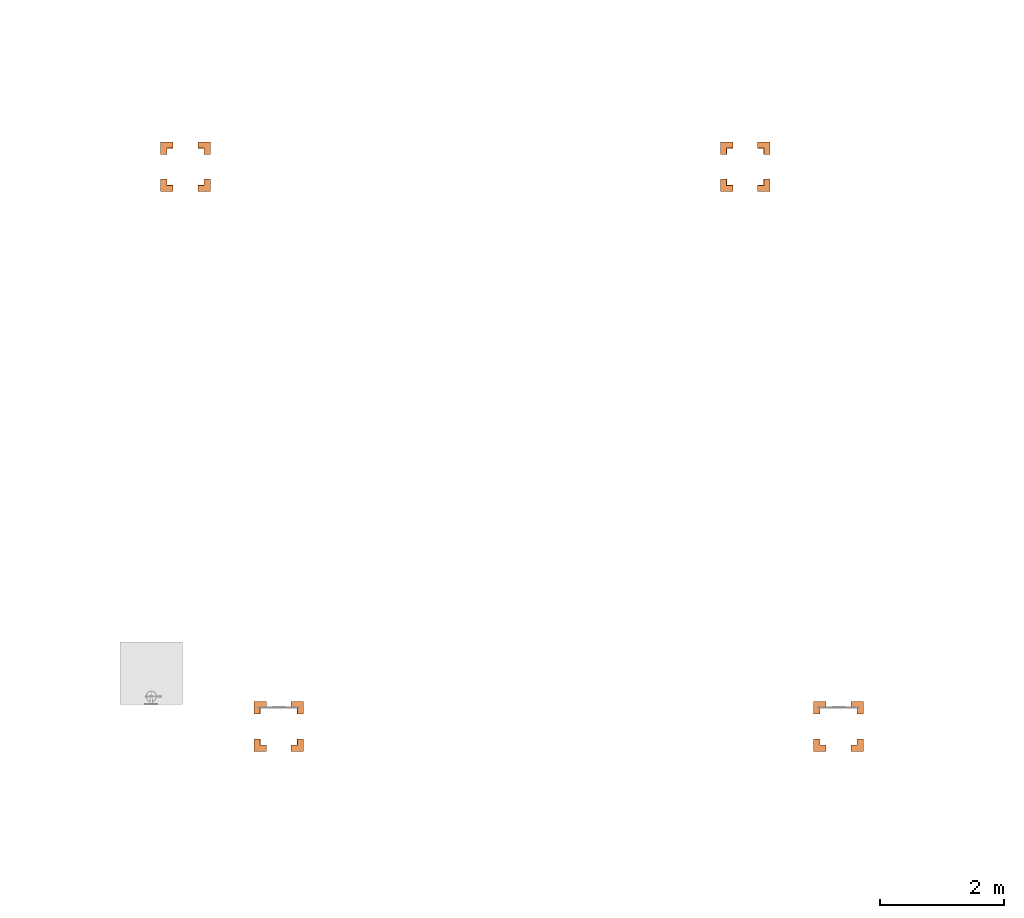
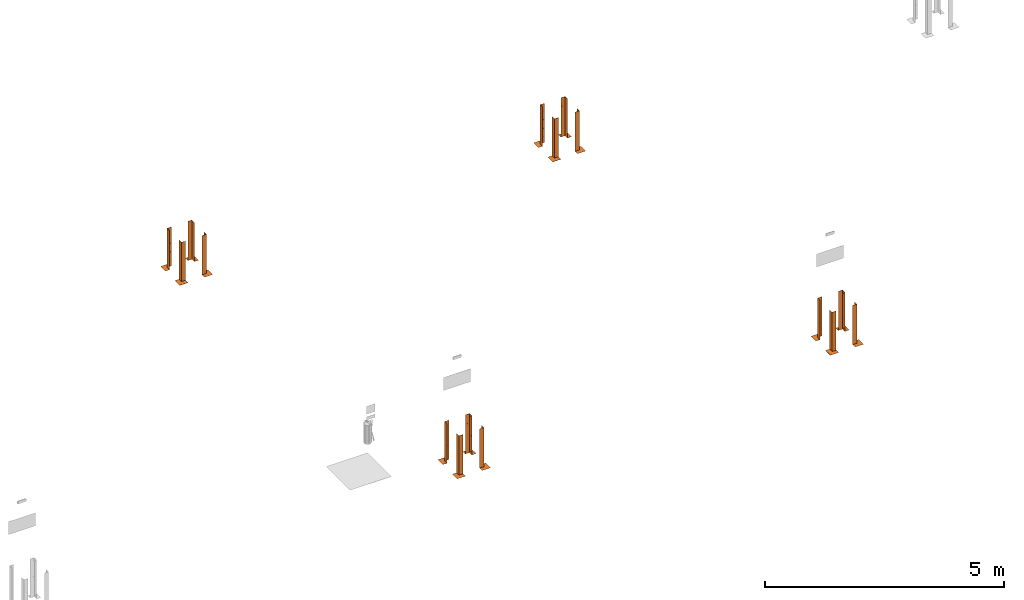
# One storey, part 22 of 119: 16 proxies.
"""IFC2X3 building model written with IfcOpenShell, lengths in metres."""

import ifcopenshell
import ifcopenshell.guid

model = None  # the IFC model being written
_history = None  # IfcOwnerHistory: only IFC2X3 demands one
_inside = {}  # id of a spatial element -> (the spatial element, [elements in it])
_under = {}  # id of a project, library or spatial element -> (it, [spatial elements below it])
_declared = {}  # id of a project -> (the project, [libraries it declares])
_typed = {}  # id of a type object -> (the type object, [elements of that type])
_made_of = {}  # id of a material, layer set ... -> (it, [elements and type objects made of it])


def new_model(schema):
    """Start an empty IFC model of exactly this schema.

    Asked for "IFC4X3", IfcOpenShell would pick the latest addendum, in which some entities
    have other attributes; the version numbers below select the first issue.
    IFC2X3 requires an IfcOwnerHistory on every rooted entity: one is made here for all.
    """
    global model, _history
    if schema == "IFC4X3":
        model = ifcopenshell.file(schema_version=(4, 3, 0, 0))
    else:
        model = ifcopenshell.file(schema=schema)
    _inside.clear()
    _under.clear()
    _declared.clear()
    _typed.clear()
    _made_of.clear()
    _history = None
    if model.schema == "IFC2X3":
        org = make("IfcOrganization", Name="unknown")
        user = make(
            "IfcPersonAndOrganization",
            ThePerson=make("IfcPerson", FamilyName="unknown"),
            TheOrganization=org,
        )
        app = make(
            "IfcApplication",
            ApplicationDeveloper=org,
            Version="unknown",
            ApplicationFullName="unknown",
            ApplicationIdentifier="unknown",
        )
        _history = make(
            "IfcOwnerHistory",
            OwningUser=user,
            OwningApplication=app,
            ChangeAction="ADDED",
            CreationDate=0,
        )
    return model


def make(cls, **values):
    """One entity of the class cls with the attributes given. An attribute that is None is left unset."""
    return model.create_entity(
        cls, **{name: value for name, value in values.items() if value is not None}
    )


def entity(cls, *values):
    """Any entity or typed value of the class cls, its attributes in the order of the schema. None: left unset."""
    e = model.create_entity(cls)
    for i, value in enumerate(values):
        if value is not None:
            e[i] = value
    return e


def rooted(cls, **values):
    """An entity with a GlobalId (a new one), such as an element, a storey or a relation."""
    return make(cls, GlobalId=ifcopenshell.guid.new(), OwnerHistory=_history, **values)


def si_unit(unit_type, name, prefix=None):
    """IfcSIUnit, for example si_unit("LENGTHUNIT", "METRE", prefix="MILLI")."""
    return make("IfcSIUnit", UnitType=unit_type, Prefix=prefix, Name=name)


def converted_unit(unit_type, name, factor, base, dimensions=None, offset=None):
    """IfcConversionBasedUnit, such as the inch: factor (a typed value) times the base unit."""
    return make(
        "IfcConversionBasedUnit"
        if offset is None
        else "IfcConversionBasedUnitWithOffset",
        ConversionOffset=offset,
        Dimensions=None
        if dimensions is None
        else entity("IfcDimensionalExponents", *dimensions),
        UnitType=unit_type,
        Name=name,
        ConversionFactor=make(
            "IfcMeasureWithUnit", ValueComponent=factor, UnitComponent=base
        ),
    )


def derived_unit(unit_type, elements):
    """IfcDerivedUnit: a product of units, each with its exponent."""
    return make(
        "IfcDerivedUnit",
        Elements=[
            make("IfcDerivedUnitElement", Unit=unit, Exponent=power)
            for unit, power in elements
        ],
        UnitType=unit_type,
    )


def assignment(units):
    """IfcUnitAssignment: the units of a project."""
    return None if units is None else make("IfcUnitAssignment", Units=units)


def point(xyz):
    """IfcCartesianPoint."""
    return None if xyz is None else make("IfcCartesianPoint", Coordinates=xyz)


def direction(xyz):
    """IfcDirection."""
    return None if xyz is None else make("IfcDirection", DirectionRatios=xyz)


def frame(location, z_axis=None, x_axis=None):
    """IfcAxis2Placement3D, a coordinate frame: its origin and axes. An axis left out is left unset."""
    return make(
        "IfcAxis2Placement3D",
        Location=point(location),
        Axis=direction(z_axis),
        RefDirection=direction(x_axis),
    )


def origin():
    """The frame at (0, 0, 0) with its axes left unset."""
    return frame((0.0, 0.0, 0.0))


def place(relative_to, where):
    """IfcLocalPlacement: puts the frame where relative to a parent placement (None: the world)."""
    return make(
        "IfcLocalPlacement", PlacementRelTo=relative_to, RelativePlacement=where
    )


def context(
    kind, dimensions, precision=None, world=None, true_north=None, identifier=None
):
    """IfcGeometricRepresentationContext, for example the 3D "Model" context."""
    return make(
        "IfcGeometricRepresentationContext",
        ContextIdentifier=identifier,
        ContextType=kind,
        CoordinateSpaceDimension=dimensions,
        Precision=precision,
        WorldCoordinateSystem=world,
        TrueNorth=true_north,
    )


def subcontext(parent, identifier, kind, view, scale=None):
    """IfcGeometricRepresentationSubContext, for example "Body" below "Model"."""
    return make(
        "IfcGeometricRepresentationSubContext",
        ContextIdentifier=identifier,
        ContextType=kind,
        ParentContext=parent,
        TargetScale=scale,
        TargetView=view,
    )


def project(units=None, contexts=None):
    """IfcProject with its units and contexts."""
    return rooted(
        "IfcProject",
        Name="project",
        RepresentationContexts=contexts,
        UnitsInContext=assignment(units),
    )


def spatial(cls, under=None, at=None, **own):
    """A site, building, storey or space (cls), placed at a placement, below another one or the project."""
    s = rooted(cls, ObjectPlacement=at, **own)
    if under is not None:
        _under.setdefault(under.id(), (under, []))[1].append(s)
    return s


def faces_of(points, faces, orient=None, outer=None):
    """IfcFace entities. A face is a list of loops; a loop is a list of indices into points, from 0.

    orient and outer hold one flag for each loop. By default every Orientation is true, the
    first loop of a face is its IfcFaceOuterBound and the others are IfcFaceBound.
    """
    made = []
    for i, loops in enumerate(faces):
        bounds = []
        for j, loop in enumerate(loops):
            is_outer = j == 0 if outer is None else outer[i][j]
            bounds.append(
                make(
                    "IfcFaceOuterBound" if is_outer else "IfcFaceBound",
                    Bound=make("IfcPolyLoop", Polygon=[points[k] for k in loop]),
                    Orientation=True if orient is None else orient[i][j],
                )
            )
        made.append(make("IfcFace", Bounds=bounds))
    return made


def faceted_brep(points, faces, orient=None, outer=None, voids=None):
    """IfcFacetedBrep: a solid bounded by flat faces; with voids (closed shells), ...WithVoids."""
    shared = [point(p) for p in points]
    hull = make("IfcClosedShell", CfsFaces=faces_of(shared, faces, orient, outer))
    if voids is None:
        return make("IfcFacetedBrep", Outer=hull)
    return make(
        "IfcFacetedBrepWithVoids",
        Outer=hull,
        Voids=[
            make(cls, CfsFaces=faces_of(shared, fs, o, b)) for cls, fs, o, b in voids
        ],
    )


def shape(context_of_items, identifier, shape_type, items):
    """IfcShapeRepresentation: the items that make up one representation, for example the "Body"."""
    return make(
        "IfcShapeRepresentation",
        ContextOfItems=context_of_items,
        RepresentationIdentifier=identifier,
        RepresentationType=shape_type,
        Items=items,
    )


def source(mapping_origin, context_of_items, identifier, shape_type, items):
    """IfcRepresentationMap: a shape defined once, which mapped items show again and again."""
    return make(
        "IfcRepresentationMap",
        MappingOrigin=mapping_origin,
        MappedRepresentation=shape(context_of_items, identifier, shape_type, items),
    )


def transform(
    local_origin,
    x_axis=None,
    y_axis=None,
    z_axis=None,
    scale=None,
    scale2=None,
    scale3=None,
    uniform=True,
):
    """IfcCartesianTransformationOperator3D, or its non-uniform kind. x_axis, y_axis, z_axis: its Axis1, 2, 3."""
    if uniform:
        return make(
            "IfcCartesianTransformationOperator3D",
            Axis1=direction(x_axis),
            Axis2=direction(y_axis),
            LocalOrigin=point(local_origin),
            Scale=scale,
            Axis3=direction(z_axis),
        )
    return make(
        "IfcCartesianTransformationOperator3DnonUniform",
        Axis1=direction(x_axis),
        Axis2=direction(y_axis),
        LocalOrigin=point(local_origin),
        Scale=scale,
        Axis3=direction(z_axis),
        Scale2=scale2,
        Scale3=scale3,
    )


def mapped(mapping_source, mapping_target):
    """IfcMappedItem: shows the shape of a source again, moved by a transform."""
    return make(
        "IfcMappedItem", MappingSource=mapping_source, MappingTarget=mapping_target
    )


def material(Name=None, Category=None):
    """IfcMaterial."""
    return make("IfcMaterial", Name=Name, Category=Category)


def material_list(materials):
    """IfcMaterialList."""
    return make("IfcMaterialList", Materials=materials)


def made_of(thing, what):
    """Note that an element or type object is made of a material, layer set ...; save() writes the relation."""
    if what is not None:
        _made_of.setdefault(what.id(), (what, []))[1].append(thing)
    return thing


def type_object(cls, material=None, **own):
    """A type object (cls), such as IfcWallType, which elements share."""
    return made_of(rooted(cls, **own), material)


def type_shapes(of_type, sources):
    """Give a type object the sources (RepresentationMaps) that its elements show as mapped items."""
    of_type.RepresentationMaps = sources


def element(
    cls,
    number,
    at=None,
    inside=None,
    cuts=None,
    type_object=None,
    material=None,
    context=None,
    identifier="Body",
    shape_type=None,
    held_by="IfcProductDefinitionShape",
    body=None,
    shapes=None,
    **own,
):
    """One element of the class cls, such as IfcWall. Its Tag is "e" and its number.

    at: its placement. inside: the storey or other place that contains it. cuts: it is an
    opening in that element (IfcRelVoidsElement). A single representation is given by context,
    identifier, shape_type and body (its items); several are given by shapes. held_by: the class
    of the entity that holds the representations. save() writes the other relations.
    """
    e = rooted(cls, Tag="e%d" % number, ObjectPlacement=at, **own)
    if body is not None:
        shapes = [shape(context, identifier, shape_type, body)]
    if shapes is not None:
        e.Representation = make(held_by, Representations=shapes)
    if inside is not None:
        _inside.setdefault(inside.id(), (inside, []))[1].append(e)
    if cuts is not None:
        rooted(
            "IfcRelVoidsElement", RelatingBuildingElement=cuts, RelatedOpeningElement=e
        )
    if type_object is not None:
        _typed.setdefault(type_object.id(), (type_object, []))[1].append(e)
    return made_of(e, material)


def aggregate(whole, parts):
    """IfcRelAggregates: a whole, such as a stair, and the parts it consists of."""
    return rooted("IfcRelAggregates", RelatingObject=whole, RelatedObjects=parts)


def save(model, path):
    """Write the relations noted so far, then the file.

    IfcRelAggregates (storeys below a building ...), IfcRelContainedInSpatialStructure (elements
    in a storey), IfcRelDefinesByType, IfcRelAssociatesMaterial and IfcRelDeclares: one each for
    every whole, place, type object, material and project.
    """
    for whole, parts in _under.values():
        aggregate(whole, parts)
    for where, things in _inside.values():
        rooted(
            "IfcRelContainedInSpatialStructure",
            RelatedElements=things,
            RelatingStructure=where,
        )
    for kind, things in _typed.values():
        rooted("IfcRelDefinesByType", RelatedObjects=things, RelatingType=kind)
    for what, things in _made_of.values():
        rooted("IfcRelAssociatesMaterial", RelatedObjects=things, RelatingMaterial=what)
    for by, libraries in _declared.values():
        rooted("IfcRelDeclares", RelatingContext=by, RelatedDefinitions=libraries)
    model.write(path)


model = new_model("IFC2X3")

# Units and contexts
model_context = context("Model", 3, precision=1e-05, world=origin(), true_north=direction((6.12303176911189e-17, 1.0)))
body_context = subcontext(model_context, "Body", "Model", "MODEL_VIEW")
ifc_project = project(units=[si_unit("LENGTHUNIT", "METRE"), si_unit("AREAUNIT", "SQUARE_METRE"), si_unit("VOLUMEUNIT", "CUBIC_METRE"), converted_unit("PLANEANGLEUNIT", "DEGREE", entity("IfcRatioMeasure", 0.0174532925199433), si_unit("PLANEANGLEUNIT", "RADIAN"), dimensions=[0, 0, 0, 0, 0, 0, 0]), si_unit("MASSUNIT", "GRAM", prefix="KILO"), derived_unit("MASSDENSITYUNIT", [(si_unit("MASSUNIT", "GRAM", prefix="KILO"), 1), (si_unit("LENGTHUNIT", "METRE"), -3)]), derived_unit("MOMENTOFINERTIAUNIT", [(si_unit("LENGTHUNIT", "METRE"), 4)]), si_unit("TIMEUNIT", "SECOND"), si_unit("FREQUENCYUNIT", "HERTZ"), si_unit("THERMODYNAMICTEMPERATUREUNIT", "DEGREE_CELSIUS"), derived_unit("THERMALTRANSMITTANCEUNIT", [(si_unit("MASSUNIT", "GRAM", prefix="KILO"), 1), (si_unit("THERMODYNAMICTEMPERATUREUNIT", "KELVIN"), -1), (si_unit("TIMEUNIT", "SECOND"), -3)]), derived_unit("VOLUMETRICFLOWRATEUNIT", [(si_unit("LENGTHUNIT", "METRE"), 3), (si_unit("TIMEUNIT", "SECOND"), -1)]), si_unit("ELECTRICCURRENTUNIT", "AMPERE"), si_unit("ELECTRICVOLTAGEUNIT", "VOLT"), si_unit("POWERUNIT", "WATT"), si_unit("FORCEUNIT", "NEWTON", prefix="KILO"), si_unit("ILLUMINANCEUNIT", "LUX"), si_unit("LUMINOUSFLUXUNIT", "LUMEN"), si_unit("LUMINOUSINTENSITYUNIT", "CANDELA"), derived_unit("USERDEFINED", [(si_unit("MASSUNIT", "GRAM", prefix="KILO"), -1), (si_unit("LENGTHUNIT", "METRE"), -2), (si_unit("TIMEUNIT", "SECOND"), 3), (si_unit("LUMINOUSFLUXUNIT", "LUMEN"), 1)]), derived_unit("LINEARVELOCITYUNIT", [(si_unit("LENGTHUNIT", "METRE"), 1), (si_unit("TIMEUNIT", "SECOND"), -1)]), si_unit("PRESSUREUNIT", "PASCAL"), derived_unit("USERDEFINED", [(si_unit("LENGTHUNIT", "METRE"), -2), (si_unit("MASSUNIT", "GRAM", prefix="KILO"), 1), (si_unit("TIMEUNIT", "SECOND"), -2)]), derived_unit("LINEARFORCEUNIT", [(si_unit("MASSUNIT", "GRAM", prefix="KILO"), 1), (si_unit("LENGTHUNIT", "METRE"), 1), (si_unit("TIMEUNIT", "SECOND"), -2), (si_unit("LENGTHUNIT", "METRE"), -1)]), derived_unit("PLANARFORCEUNIT", [(si_unit("MASSUNIT", "GRAM", prefix="KILO"), 1), (si_unit("LENGTHUNIT", "METRE"), 1), (si_unit("TIMEUNIT", "SECOND"), -2), (si_unit("LENGTHUNIT", "METRE"), -2)])], contexts=[model_context])

# Site, building, storey
site_placement = place(None, origin())
site = spatial("IfcSite", under=ifc_project, at=site_placement, Name="Default", CompositionType="ELEMENT")
building_placement = place(site_placement, origin())
building = spatial("IfcBuilding", under=site, at=building_placement, CompositionType="ELEMENT")
storey_placement = place(building_placement, origin())
storey = spatial("IfcBuildingStorey", under=building, at=storey_placement, Name="PAV. 01 - TÉRREO", CompositionType="ELEMENT", Elevation=0.0)

# Proxies
ifc_material_1 = material(Name="Plastico Amarelo")
ifc_material_2 = material(Name="Plastico Preto")
ifc_material_3 = material(Name="O_01_amarelo")
ifc_material_4 = material(Name="O_01_Preto")
ifc_material_list_1 = material_list([ifc_material_1, ifc_material_2, ifc_material_3, ifc_material_4])
ifc_material_list_2 = material_list([ifc_material_3, ifc_material_4, ifc_material_1])
building_element_proxy_type = type_object("IfcBuildingElementProxyType", Name="Indicação de Obstáculos:Indicador - O01 - Amarelo (ambiente interno)", PredefinedType="NOTDEFINED", material=ifc_material_list_2)
shared_shape = source(origin(), body_context, "Body", "Brep", [
    faceted_brep([(0.1, -0.0499999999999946, 0.000999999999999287), (0.0499999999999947, -0.1, 0.000999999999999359), (0.1, -0.1, 0.000999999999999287), (0.1, -0.0499999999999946, 0.0), (0.1, -0.1, 0.0), (0.0499999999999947, -0.1, 0.0)], [[[0, 1, 2]], [[3, 4, 5]], [[0, 2, 4, 3]], [[1, 0, 3, 5]], [[2, 1, 5, 4]]]),
    faceted_brep([(0.100000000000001, 0.0, 0.000999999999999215), (0.0, -0.1, 0.000999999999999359), (0.049999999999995, -0.1, 0.000999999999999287), (0.100000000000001, -0.0499999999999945, 0.000999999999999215), (0.100000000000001, 0.0, 0.0), (0.100000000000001, -0.0499999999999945, 0.0), (0.049999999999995, -0.1, 0.0), (0.0, -0.1, 0.0)], [[[0, 1, 2, 3]], [[4, 5, 6, 7]], [[0, 3, 5, 4]], [[1, 0, 4, 7]], [[3, 2, 6, 5]], [[2, 1, 7, 6]]]),
    faceted_brep([(0.049999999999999, 0.0, 0.000999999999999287), (-0.0500000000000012, -0.0999999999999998, 0.000999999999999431), (0.0, -0.1, 0.000999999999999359), (0.0999999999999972, 0.0, 0.000999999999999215), (0.049999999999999, 0.0, 0.0), (0.0999999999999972, 0.0, 0.0), (0.0, -0.1, 0.0), (-0.0500000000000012, -0.0999999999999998, 0.0)], [[[0, 1, 2, 3]], [[4, 5, 6, 7]], [[1, 0, 4, 7]], [[3, 2, 6, 5]], [[2, 1, 7, 6]], [[0, 3, 5, 4]]]),
    faceted_brep([(-0.0999999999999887, -0.0999999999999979, 0.000999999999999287), (-0.0499999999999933, -0.0999999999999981, 0.000999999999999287), (0.0499999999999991, 0.0, 0.000999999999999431), (0.0, 0.0, 0.000999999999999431), (-0.0999999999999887, -0.0999999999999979, 0.0), (0.0, 0.0, 0.0), (0.049999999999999, 0.0, 0.0), (-0.0499999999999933, -0.0999999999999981, 0.0)], [[[0, 1, 2, 3]], [[4, 5, 6, 7]], [[0, 3, 5, 4]], [[2, 1, 7, 6]], [[3, 2, 6, 5]], [[1, 0, 4, 7]]]),
    faceted_brep([(0.0, 0.0500000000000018, 0.000999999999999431), (-0.0999999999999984, -0.0500000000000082, 0.000999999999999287), (-0.099999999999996, -0.100000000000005, 0.000999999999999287), (0.0, 0.0, 0.000999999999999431), (0.0, 0.0500000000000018, 0.0), (0.0, 0.0, 0.0), (-0.099999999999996, -0.100000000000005, 0.0), (-0.0999999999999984, -0.0500000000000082, 0.0)], [[[0, 1, 2, 3]], [[4, 5, 6, 7]], [[0, 3, 5, 4]], [[1, 0, 4, 7]], [[2, 1, 7, 6]], [[3, 2, 6, 5]]]),
    faceted_brep([(-0.0999999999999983, 0.0499999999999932, 0.000999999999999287), (-0.0499999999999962, 0.1, 0.000999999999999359), (-0.100000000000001, 0.1, 0.000999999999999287), (-0.0999999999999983, 0.0499999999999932, 0.0), (-0.100000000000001, 0.1, 0.0), (-0.0499999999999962, 0.1, 0.0)], [[[0, 1, 2]], [[3, 4, 5]], [[0, 2, 4, 3]], [[1, 0, 3, 5]], [[2, 1, 5, 4]]]),
    faceted_brep([(-0.0999999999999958, 0.0, 0.000999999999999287), (0.0, 0.1, 0.000999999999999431), (-0.0499999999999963, 0.1, 0.000999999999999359), (-0.0999999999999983, 0.0499999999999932, 0.000999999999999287), (-0.0999999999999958, 0.0, 0.0), (-0.0999999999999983, 0.0499999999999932, 0.0), (-0.0499999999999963, 0.1, 0.0), (0.0, 0.1, 0.0)], [[[0, 1, 2, 3]], [[4, 5, 6, 7]], [[0, 3, 5, 4]], [[1, 0, 4, 7]], [[3, 2, 6, 5]], [[2, 1, 7, 6]]]),
    faceted_brep([(0.0, 0.050000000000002, 0.000999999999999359), (0.0, 0.1, 0.000999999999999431), (-0.0999999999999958, 0.0, 0.000999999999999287), (-0.0999999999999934, -0.0500000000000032, 0.000999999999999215), (0.0, 0.0500000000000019, 0.0), (-0.0999999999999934, -0.0500000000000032, 0.0), (-0.0999999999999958, 0.0, 0.0), (0.0, 0.1, 0.0)], [[[0, 1, 2, 3]], [[4, 5, 6, 7]], [[1, 0, 4, 7]], [[2, 1, 7, 6]], [[0, 3, 5, 4]], [[3, 2, 6, 5]]]),
    faceted_brep([(0.00200000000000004, 0.1, 1.0), (0.002, 0.00199999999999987, 0.902000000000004), (0.002, 0.00199999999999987, 0.802000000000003), (0.00200000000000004, 0.1, 0.900000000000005), (0.0, 0.1, 0.900000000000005), (0.0, 0.0, 0.800000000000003), (0.0, 0.0, 0.900000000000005), (0.0, 0.1, 1.0)], [[[0, 1, 2, 3]], [[4, 5, 6, 7]], [[4, 3, 2, 5]], [[1, 6, 5, 2]], [[6, 1, 0, 7]], [[3, 4, 7, 0]]]),
    faceted_brep([(0.00200000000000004, 0.1, 0.800000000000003), (0.002, 0.00199999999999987, 0.702000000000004), (0.002, 0.00199999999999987, 0.602000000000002), (0.00200000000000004, 0.1, 0.700000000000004), (0.0, 0.1, 0.700000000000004), (0.0, 0.0, 0.600000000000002), (0.0, 0.0, 0.700000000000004), (0.0, 0.1, 0.800000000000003)], [[[0, 1, 2, 3]], [[4, 5, 6, 7]], [[4, 3, 2, 5]], [[1, 6, 5, 2]], [[6, 1, 0, 7]], [[3, 4, 7, 0]]]),
    faceted_brep([(0.00200000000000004, 0.1, 0.600000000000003), (0.002, 0.00199999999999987, 0.502000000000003), (0.002, 0.00199999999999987, 0.402000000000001), (0.00200000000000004, 0.1, 0.500000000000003), (0.0, 0.1, 0.500000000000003), (0.0, 0.0, 0.400000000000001), (0.0, 0.0, 0.500000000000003), (0.0, 0.1, 0.600000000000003)], [[[0, 1, 2, 3]], [[4, 5, 6, 7]], [[4, 3, 2, 5]], [[1, 6, 5, 2]], [[6, 1, 0, 7]], [[3, 4, 7, 0]]]),
    faceted_brep([(0.00200000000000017, 0.0999999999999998, 0.400000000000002), (0.00200000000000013, 0.0019999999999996, 0.302000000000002), (0.00200000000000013, 0.0019999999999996, 0.202), (0.00200000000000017, 0.0999999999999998, 0.300000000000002), (0.0, 0.0999999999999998, 0.300000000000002), (0.0, 0.0, 0.2), (0.0, 0.0, 0.300000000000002), (0.0, 0.0999999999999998, 0.400000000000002)], [[[0, 1, 2, 3]], [[4, 5, 6, 7]], [[4, 3, 2, 5]], [[1, 6, 5, 2]], [[6, 1, 0, 7]], [[3, 4, 7, 0]]]),
    faceted_brep([(0.000500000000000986, 0.1, 0.900000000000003), (0.000500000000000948, 0.000499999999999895, 0.800500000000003), (0.000500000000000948, 0.00049999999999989, 0.700500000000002), (0.000500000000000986, 0.1, 0.800000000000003), (0.0, 0.1, 0.800000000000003), (0.0, 0.0, 0.700000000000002), (0.0, 0.0, 0.800000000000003), (0.0, 0.1, 0.900000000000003)], [[[0, 1, 2, 3]], [[4, 5, 6, 7]], [[4, 3, 2, 5]], [[1, 6, 5, 2]], [[6, 1, 0, 7]], [[3, 4, 7, 0]]]),
    faceted_brep([(0.000500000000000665, 0.1, 0.700000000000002), (0.000500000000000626, 0.000499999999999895, 0.600500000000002), (0.000500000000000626, 0.00049999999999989, 0.500500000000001), (0.000500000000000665, 0.1, 0.600000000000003), (0.0, 0.1, 0.600000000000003), (0.0, 0.0, 0.500000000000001), (0.0, 0.0, 0.600000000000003), (0.0, 0.1, 0.700000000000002)], [[[0, 1, 2, 3]], [[4, 5, 6, 7]], [[4, 3, 2, 5]], [[1, 6, 5, 2]], [[6, 1, 0, 7]], [[3, 4, 7, 0]]]),
    faceted_brep([(0.000500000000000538, 0.0999999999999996, 0.500000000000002), (0.000500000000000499, 0.000499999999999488, 0.400500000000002), (0.000500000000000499, 0.000499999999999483, 0.3005), (0.000500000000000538, 0.0999999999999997, 0.400000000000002), (0.0, 0.0999999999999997, 0.400000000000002), (0.0, 0.0, 0.3), (0.0, 0.0, 0.400000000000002), (0.0, 0.0999999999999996, 0.500000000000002)], [[[0, 1, 2, 3]], [[4, 5, 6, 7]], [[4, 3, 2, 5]], [[1, 6, 5, 2]], [[6, 1, 0, 7]], [[3, 4, 7, 0]]]),
    faceted_brep([(0.00499999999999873, 0.00499999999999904, 1.0), (0.00499999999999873, 0.00499999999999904, 0.904999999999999), (0.00499999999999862, 0.0999999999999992, 1.0), (0.0, 0.0, 0.899999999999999), (0.0, 0.0, 1.0), (0.0, 0.0999999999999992, 1.0)], [[[0, 1, 2]], [[3, 4, 5]], [[4, 0, 2, 5]], [[5, 2, 1, 3]], [[0, 4, 3, 1]]]),
    faceted_brep([(0.00499999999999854, 0.00499999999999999, 1.0), (0.0999999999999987, 0.00499999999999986, 1.0), (0.00499999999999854, 0.00499999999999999, 0.904999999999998), (0.0, 0.0, 0.899999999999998), (0.0999999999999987, 0.0, 1.0), (0.0, 0.0, 1.0)], [[[0, 1, 2]], [[3, 4, 5]], [[5, 4, 1, 0]], [[4, 3, 2, 1]], [[0, 2, 3, 5]]]),
    faceted_brep([(0.0999999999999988, 0.000499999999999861, 0.900000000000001), (0.0999999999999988, 0.000499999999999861, 0.800000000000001), (0.000499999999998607, 0.000499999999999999, 0.7005), (0.000499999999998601, 0.000499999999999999, 0.800500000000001), (0.0999999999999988, 0.0, 0.800000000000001), (0.0999999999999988, 0.0, 0.900000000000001), (0.0, 0.0, 0.800000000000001), (0.0, 0.0, 0.7)], [[[0, 1, 2, 3]], [[4, 5, 6, 7]], [[4, 7, 2, 1]], [[3, 2, 7, 6]], [[6, 5, 0, 3]], [[1, 0, 5, 4]]]),
    faceted_brep([(0.0999999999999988, 0.000499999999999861, 0.700000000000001), (0.0999999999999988, 0.000499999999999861, 0.600000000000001), (0.000499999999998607, 0.000499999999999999, 0.5005), (0.000499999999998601, 0.000499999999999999, 0.600500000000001), (0.0999999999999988, 0.0, 0.600000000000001), (0.0999999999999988, 0.0, 0.700000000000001), (0.0, 0.0, 0.600000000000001), (0.0, 0.0, 0.5)], [[[0, 1, 2, 3]], [[4, 5, 6, 7]], [[4, 7, 2, 1]], [[3, 2, 7, 6]], [[6, 5, 0, 3]], [[1, 0, 5, 4]]]),
    faceted_brep([(0.0999999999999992, 0.000499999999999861, 0.500000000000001), (0.0999999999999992, 0.000499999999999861, 0.400000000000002), (0.000499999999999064, 0.000499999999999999, 0.3005), (0.000499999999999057, 0.000499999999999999, 0.400500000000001), (0.0999999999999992, 0.0, 0.400000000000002), (0.0999999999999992, 0.0, 0.500000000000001), (0.0, 0.0, 0.400000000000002), (0.0, 0.0, 0.3)], [[[0, 1, 2, 3]], [[4, 5, 6, 7]], [[4, 7, 2, 1]], [[3, 2, 7, 6]], [[6, 5, 0, 3]], [[1, 0, 5, 4]]]),
    faceted_brep([(0.0999999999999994, 0.00199999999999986, 1.0), (0.0999999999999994, 0.00199999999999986, 0.900000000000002), (0.00199999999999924, 0.002, 0.802), (0.00199999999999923, 0.002, 0.902000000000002), (0.0999999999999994, 0.0, 0.900000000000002), (0.0999999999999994, 0.0, 1.0), (0.0, 0.0, 0.900000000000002), (0.0, 0.0, 0.8)], [[[0, 1, 2, 3]], [[4, 5, 6, 7]], [[4, 7, 2, 1]], [[3, 2, 7, 6]], [[6, 5, 0, 3]], [[1, 0, 5, 4]]]),
    faceted_brep([(0.0999999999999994, 0.00199999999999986, 0.800000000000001), (0.0999999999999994, 0.00199999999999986, 0.700000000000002), (0.00199999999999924, 0.002, 0.602), (0.00199999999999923, 0.002, 0.702000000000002), (0.0999999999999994, 0.0, 0.700000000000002), (0.0999999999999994, 0.0, 0.800000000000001), (0.0, 0.0, 0.700000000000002), (0.0, 0.0, 0.6)], [[[0, 1, 2, 3]], [[4, 5, 6, 7]], [[4, 7, 2, 1]], [[3, 2, 7, 6]], [[6, 5, 0, 3]], [[1, 0, 5, 4]]]),
    faceted_brep([(0.0999999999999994, 0.00199999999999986, 0.600000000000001), (0.0999999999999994, 0.00199999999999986, 0.500000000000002), (0.00199999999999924, 0.002, 0.402), (0.00199999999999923, 0.002, 0.502000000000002), (0.0999999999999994, 0.0, 0.500000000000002), (0.0999999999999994, 0.0, 0.600000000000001), (0.0, 0.0, 0.500000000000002), (0.0, 0.0, 0.4)], [[[0, 1, 2, 3]], [[4, 5, 6, 7]], [[4, 7, 2, 1]], [[3, 2, 7, 6]], [[6, 5, 0, 3]], [[1, 0, 5, 4]]]),
    faceted_brep([(0.0999999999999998, 0.00199999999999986, 0.400000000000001), (0.0999999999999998, 0.00199999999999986, 0.300000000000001), (0.00199999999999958, 0.002, 0.202), (0.00199999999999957, 0.002, 0.302000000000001), (0.0999999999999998, 0.0, 0.300000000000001), (0.0999999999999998, 0.0, 0.400000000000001), (0.0, 0.0, 0.300000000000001), (0.0, 0.0, 0.2)], [[[0, 1, 2, 3]], [[4, 5, 6, 7]], [[4, 7, 2, 1]], [[3, 2, 7, 6]], [[6, 5, 0, 3]], [[1, 0, 5, 4]]]),
    faceted_brep([(0.000500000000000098, 0.1, 0.300000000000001), (0.000500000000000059, 0.000499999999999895, 0.200500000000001), (0.000500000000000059, 0.00049999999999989, 0.1005), (0.000500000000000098, 0.1, 0.200000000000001), (0.0, 0.1, 0.200000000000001), (0.0, 0.0, 0.0999999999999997), (0.0, 0.0, 0.200000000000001), (0.0, 0.1, 0.300000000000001)], [[[0, 1, 2, 3]], [[4, 5, 6, 7]], [[4, 3, 2, 5]], [[1, 6, 5, 2]], [[6, 1, 0, 7]], [[3, 4, 7, 0]]]),
    faceted_brep([(0.00200000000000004, 0.1, 0.200000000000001), (0.002, 0.00199999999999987, 0.102000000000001), (0.002, 0.00199999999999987, 0.00199999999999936), (0.00200000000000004, 0.1, 0.100000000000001), (0.0, 0.1, 0.100000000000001), (0.0, 0.0, 0.0), (0.0, 0.0, 0.100000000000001), (0.0, 0.1, 0.200000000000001)], [[[0, 1, 2, 3]], [[4, 5, 6, 7]], [[4, 3, 2, 5]], [[1, 6, 5, 2]], [[6, 1, 0, 7]], [[3, 4, 7, 0]]]),
    faceted_brep([(0.000500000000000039, 0.1, 0.100000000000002), (0.0005, 0.000499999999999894, 0.000499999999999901), (0.0005, 0.000499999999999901, 0.0), (0.000500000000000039, 0.1, 0.0), (0.0, 0.0, 0.0), (0.0, 0.1, 0.100000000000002), (0.0, 0.1, 0.0)], [[[0, 1, 2, 3]], [[4, 5, 6]], [[3, 6, 5, 0]], [[6, 3, 2, 4]], [[4, 1, 0, 5]], [[1, 4, 2]]]),
    faceted_brep([(0.0999999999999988, 0.000499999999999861, 0.300000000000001), (0.0999999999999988, 0.000499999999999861, 0.200000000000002), (0.000499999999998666, 0.000499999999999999, 0.1005), (0.00049999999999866, 0.000499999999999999, 0.200500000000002), (0.0999999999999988, 0.0, 0.200000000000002), (0.0999999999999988, 0.0, 0.300000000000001), (0.0, 0.0, 0.200000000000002), (0.0, 0.0, 0.1)], [[[0, 1, 2, 3]], [[4, 5, 6, 7]], [[4, 7, 2, 1]], [[3, 2, 7, 6]], [[6, 5, 0, 3]], [[1, 0, 5, 4]]]),
    faceted_brep([(0.0999999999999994, 0.00199999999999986, 0.200000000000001), (0.0999999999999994, 0.00199999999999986, 0.100000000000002), (0.00199999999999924, 0.002, 0.0019999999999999), (0.00199999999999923, 0.002, 0.102000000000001), (0.0999999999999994, 0.0, 0.100000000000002), (0.0999999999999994, 0.0, 0.200000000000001), (0.0, 0.0, 0.100000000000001), (0.0, 0.0, 0.0)], [[[0, 1, 2, 3]], [[4, 5, 6, 7]], [[4, 7, 2, 1]], [[3, 2, 7, 6]], [[6, 5, 0, 3]], [[1, 0, 5, 4]]]),
    faceted_brep([(0.1, 0.000499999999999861, 0.100000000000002), (0.1, 0.000499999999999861, 0.0), (0.000499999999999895, 0.000499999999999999, 0.0), (0.000499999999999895, 0.000499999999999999, 0.000499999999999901), (0.0, 0.0, 0.0), (0.1, 0.0, 0.0), (0.1, 0.0, 0.100000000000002)], [[[0, 1, 2, 3]], [[4, 5, 6]], [[1, 0, 6, 5]], [[5, 4, 2, 1]], [[4, 6, 0, 3]], [[3, 2, 4]]]),
])
type_shapes(building_element_proxy_type, [shared_shape])
proxy_1_placement = place(storey_placement, frame((57.4738110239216, 31.6286451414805, 0.0), z_axis=(0.0, 0.0, 1.0), x_axis=(0.0, 1.0, 0.0)))
element("IfcBuildingElementProxy", 1, at=proxy_1_placement, inside=storey, type_object=building_element_proxy_type, material=ifc_material_list_1, Name="Indicação de Obstáculos:Indicador - O01 - Amarelo (ambiente interno)", ObjectType="Indicação de Obstáculos:Indicador - O01 - Amarelo (ambiente interno)", context=body_context, shape_type="MappedRepresentation", body=[
    mapped(shared_shape, transform((0.0, 0.0, 0.0), scale=1.0)),
])
ifc_material_list_3 = material_list([ifc_material_1, ifc_material_2, ifc_material_3, ifc_material_4])
proxy_2_placement = place(storey_placement, frame((56.8738117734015, 31.6286451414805, 0.0)))
element("IfcBuildingElementProxy", 2, at=proxy_2_placement, inside=storey, type_object=building_element_proxy_type, material=ifc_material_list_3, Name="Indicação de Obstáculos:Indicador - O01 - Amarelo (ambiente interno)", ObjectType="Indicação de Obstáculos:Indicador - O01 - Amarelo (ambiente interno)", context=body_context, shape_type="MappedRepresentation", body=[
    mapped(shared_shape, transform((0.0, 0.0, 0.0), scale=1.0)),
])
ifc_material_list_4 = material_list([ifc_material_1, ifc_material_2, ifc_material_3, ifc_material_4])
proxy_3_placement = place(storey_placement, frame((57.4738110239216, 32.2286443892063, 0.0), z_axis=(0.0, 0.0, 1.0), x_axis=(-1.0, 0.0, 0.0)))
element("IfcBuildingElementProxy", 3, at=proxy_3_placement, inside=storey, type_object=building_element_proxy_type, material=ifc_material_list_4, Name="Indicação de Obstáculos:Indicador - O01 - Amarelo (ambiente interno)", ObjectType="Indicação de Obstáculos:Indicador - O01 - Amarelo (ambiente interno)", context=body_context, shape_type="MappedRepresentation", body=[
    mapped(shared_shape, transform((0.0, 0.0, 0.0), scale=1.0)),
])
ifc_material_list_5 = material_list([ifc_material_1, ifc_material_2, ifc_material_3, ifc_material_4])
proxy_4_placement = place(storey_placement, frame((56.8738117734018, 32.2286443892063, 0.0), z_axis=(0.0, 0.0, 1.0), x_axis=(0.0, -1.0, 0.0)))
element("IfcBuildingElementProxy", 4, at=proxy_4_placement, inside=storey, type_object=building_element_proxy_type, material=ifc_material_list_5, Name="Indicação de Obstáculos:Indicador - O01 - Amarelo (ambiente interno)", ObjectType="Indicação de Obstáculos:Indicador - O01 - Amarelo (ambiente interno)", context=body_context, shape_type="MappedRepresentation", body=[
    mapped(shared_shape, transform((0.0, 0.0, 0.0), scale=1.0)),
])
ifc_material_list_6 = material_list([ifc_material_1, ifc_material_2, ifc_material_3, ifc_material_4])
proxy_5_placement = place(storey_placement, frame((66.4737997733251, 31.6286451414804, 0.0), z_axis=(0.0, 0.0, 1.0), x_axis=(0.0, 1.0, 0.0)))
element("IfcBuildingElementProxy", 5, at=proxy_5_placement, inside=storey, type_object=building_element_proxy_type, material=ifc_material_list_6, Name="Indicação de Obstáculos:Indicador - O01 - Amarelo (ambiente interno)", ObjectType="Indicação de Obstáculos:Indicador - O01 - Amarelo (ambiente interno)", context=body_context, shape_type="MappedRepresentation", body=[
    mapped(shared_shape, transform((0.0, 0.0, 0.0), scale=1.0)),
])
ifc_material_list_7 = material_list([ifc_material_1, ifc_material_2, ifc_material_3, ifc_material_4])
proxy_6_placement = place(storey_placement, frame((65.873800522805, 31.6286451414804, 0.0)))
element("IfcBuildingElementProxy", 6, at=proxy_6_placement, inside=storey, type_object=building_element_proxy_type, material=ifc_material_list_7, Name="Indicação de Obstáculos:Indicador - O01 - Amarelo (ambiente interno)", ObjectType="Indicação de Obstáculos:Indicador - O01 - Amarelo (ambiente interno)", context=body_context, shape_type="MappedRepresentation", body=[
    mapped(shared_shape, transform((0.0, 0.0, 0.0), scale=1.0)),
])
ifc_material_list_8 = material_list([ifc_material_1, ifc_material_2, ifc_material_3, ifc_material_4])
proxy_7_placement = place(storey_placement, frame((66.4737997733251, 32.2286443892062, 0.0), z_axis=(0.0, 0.0, 1.0), x_axis=(-1.0, 0.0, 0.0)))
element("IfcBuildingElementProxy", 7, at=proxy_7_placement, inside=storey, type_object=building_element_proxy_type, material=ifc_material_list_8, Name="Indicação de Obstáculos:Indicador - O01 - Amarelo (ambiente interno)", ObjectType="Indicação de Obstáculos:Indicador - O01 - Amarelo (ambiente interno)", context=body_context, shape_type="MappedRepresentation", body=[
    mapped(shared_shape, transform((0.0, 0.0, 0.0), scale=1.0)),
])
ifc_material_list_9 = material_list([ifc_material_1, ifc_material_2, ifc_material_3, ifc_material_4])
proxy_8_placement = place(storey_placement, frame((65.8738005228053, 32.2286443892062, 0.0), z_axis=(0.0, 0.0, 1.0), x_axis=(0.0, -1.0, 0.0)))
element("IfcBuildingElementProxy", 8, at=proxy_8_placement, inside=storey, type_object=building_element_proxy_type, material=ifc_material_list_9, Name="Indicação de Obstáculos:Indicador - O01 - Amarelo (ambiente interno)", ObjectType="Indicação de Obstáculos:Indicador - O01 - Amarelo (ambiente interno)", context=body_context, shape_type="MappedRepresentation", body=[
    mapped(shared_shape, transform((0.0, 0.0, 0.0), scale=1.0)),
])
ifc_material_list_10 = material_list([ifc_material_1, ifc_material_2, ifc_material_3, ifc_material_4])
proxy_9_placement = place(storey_placement, frame((55.9738128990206, 40.6286338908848, 0.0), z_axis=(0.0, 0.0, 1.0), x_axis=(0.0, 1.0, 0.0)))
element("IfcBuildingElementProxy", 9, at=proxy_9_placement, inside=storey, type_object=building_element_proxy_type, material=ifc_material_list_10, Name="Indicação de Obstáculos:Indicador - O01 - Amarelo (ambiente interno)", ObjectType="Indicação de Obstáculos:Indicador - O01 - Amarelo (ambiente interno)", context=body_context, shape_type="MappedRepresentation", body=[
    mapped(shared_shape, transform((0.0, 0.0, 0.0), scale=1.0)),
])
ifc_material_list_11 = material_list([ifc_material_1, ifc_material_2, ifc_material_3, ifc_material_4])
proxy_10_placement = place(storey_placement, frame((55.3738136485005, 40.6286338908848, 0.0)))
element("IfcBuildingElementProxy", 10, at=proxy_10_placement, inside=storey, type_object=building_element_proxy_type, material=ifc_material_list_11, Name="Indicação de Obstáculos:Indicador - O01 - Amarelo (ambiente interno)", ObjectType="Indicação de Obstáculos:Indicador - O01 - Amarelo (ambiente interno)", context=body_context, shape_type="MappedRepresentation", body=[
    mapped(shared_shape, transform((0.0, 0.0, 0.0), scale=1.0)),
])
ifc_material_list_12 = material_list([ifc_material_1, ifc_material_2, ifc_material_3, ifc_material_4])
proxy_11_placement = place(storey_placement, frame((55.9738128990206, 41.2286331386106, 0.0), z_axis=(0.0, 0.0, 1.0), x_axis=(-1.0, 0.0, 0.0)))
element("IfcBuildingElementProxy", 11, at=proxy_11_placement, inside=storey, type_object=building_element_proxy_type, material=ifc_material_list_12, Name="Indicação de Obstáculos:Indicador - O01 - Amarelo (ambiente interno)", ObjectType="Indicação de Obstáculos:Indicador - O01 - Amarelo (ambiente interno)", context=body_context, shape_type="MappedRepresentation", body=[
    mapped(shared_shape, transform((0.0, 0.0, 0.0), scale=1.0)),
])
ifc_material_list_13 = material_list([ifc_material_1, ifc_material_2, ifc_material_3, ifc_material_4])
proxy_12_placement = place(storey_placement, frame((55.3738136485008, 41.2286331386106, 0.0), z_axis=(0.0, 0.0, 1.0), x_axis=(0.0, -1.0, 0.0)))
element("IfcBuildingElementProxy", 12, at=proxy_12_placement, inside=storey, type_object=building_element_proxy_type, material=ifc_material_list_13, Name="Indicação de Obstáculos:Indicador - O01 - Amarelo (ambiente interno)", ObjectType="Indicação de Obstáculos:Indicador - O01 - Amarelo (ambiente interno)", context=body_context, shape_type="MappedRepresentation", body=[
    mapped(shared_shape, transform((0.0, 0.0, 0.0), scale=1.0)),
])
ifc_material_list_14 = material_list([ifc_material_1, ifc_material_2, ifc_material_3, ifc_material_4])
proxy_13_placement = place(storey_placement, frame((64.9738016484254, 40.6286338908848, 0.0), z_axis=(0.0, 0.0, 1.0), x_axis=(0.0, 1.0, 0.0)))
element("IfcBuildingElementProxy", 13, at=proxy_13_placement, inside=storey, type_object=building_element_proxy_type, material=ifc_material_list_14, Name="Indicação de Obstáculos:Indicador - O01 - Amarelo (ambiente interno)", ObjectType="Indicação de Obstáculos:Indicador - O01 - Amarelo (ambiente interno)", context=body_context, shape_type="MappedRepresentation", body=[
    mapped(shared_shape, transform((0.0, 0.0, 0.0), scale=1.0)),
])
ifc_material_list_15 = material_list([ifc_material_1, ifc_material_2, ifc_material_3, ifc_material_4])
proxy_14_placement = place(storey_placement, frame((64.3738023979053, 40.6286338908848, 0.0)))
element("IfcBuildingElementProxy", 14, at=proxy_14_placement, inside=storey, type_object=building_element_proxy_type, material=ifc_material_list_15, Name="Indicação de Obstáculos:Indicador - O01 - Amarelo (ambiente interno)", ObjectType="Indicação de Obstáculos:Indicador - O01 - Amarelo (ambiente interno)", context=body_context, shape_type="MappedRepresentation", body=[
    mapped(shared_shape, transform((0.0, 0.0, 0.0), scale=1.0)),
])
ifc_material_list_16 = material_list([ifc_material_1, ifc_material_2, ifc_material_3, ifc_material_4])
proxy_15_placement = place(storey_placement, frame((64.9738016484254, 41.2286331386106, 0.0), z_axis=(0.0, 0.0, 1.0), x_axis=(-1.0, 0.0, 0.0)))
element("IfcBuildingElementProxy", 15, at=proxy_15_placement, inside=storey, type_object=building_element_proxy_type, material=ifc_material_list_16, Name="Indicação de Obstáculos:Indicador - O01 - Amarelo (ambiente interno)", ObjectType="Indicação de Obstáculos:Indicador - O01 - Amarelo (ambiente interno)", context=body_context, shape_type="MappedRepresentation", body=[
    mapped(shared_shape, transform((0.0, 0.0, 0.0), scale=1.0)),
])
ifc_material_list_17 = material_list([ifc_material_1, ifc_material_2, ifc_material_3, ifc_material_4])
proxy_16_placement = place(storey_placement, frame((64.3738023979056, 41.2286331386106, 0.0), z_axis=(0.0, 0.0, 1.0), x_axis=(0.0, -1.0, 0.0)))
element("IfcBuildingElementProxy", 16, at=proxy_16_placement, inside=storey, type_object=building_element_proxy_type, material=ifc_material_list_17, Name="Indicação de Obstáculos:Indicador - O01 - Amarelo (ambiente interno)", ObjectType="Indicação de Obstáculos:Indicador - O01 - Amarelo (ambiente interno)", context=body_context, shape_type="MappedRepresentation", body=[
    mapped(shared_shape, transform((0.0, 0.0, 0.0), scale=1.0)),
])

save(model, "model.ifc")
